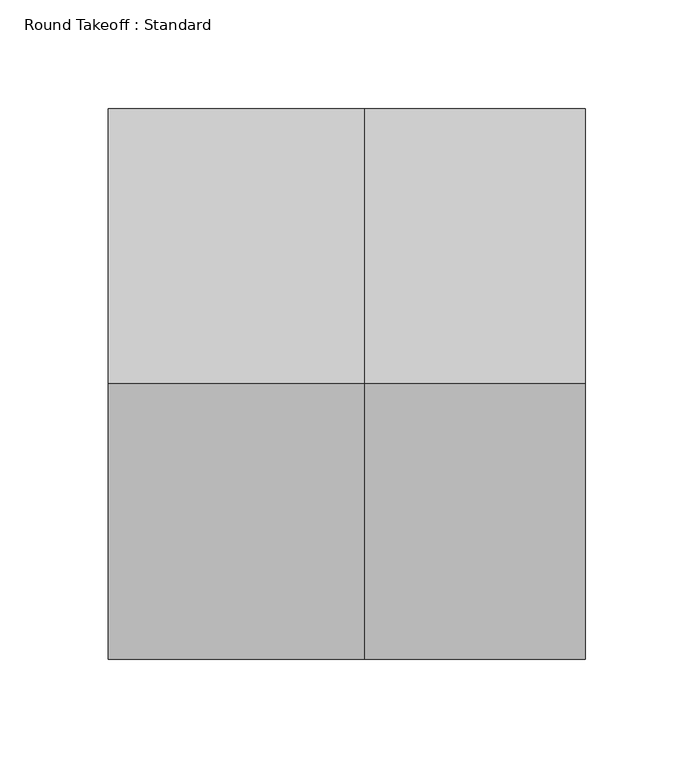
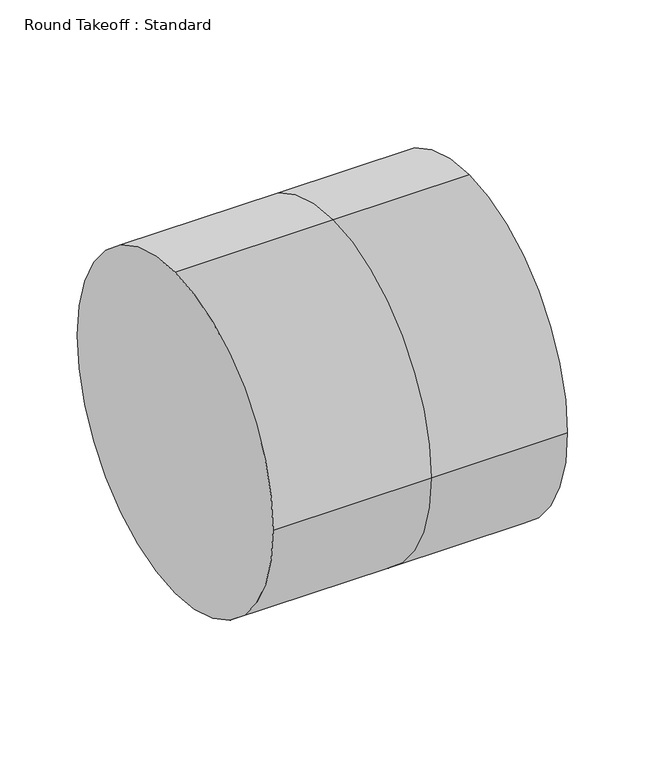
"""IFC4 building model written with IfcOpenShell, lengths in millimetres: duct fitting geometry, Round Takeoff : Standard."""

from ifc_helpers import new_model, si_unit, frame, origin, place, context, project, spatial, circle_curve, source, transform, mapped, element, save
from ifc_brep_helpers import plane_surface, cylinder_surface, advanced_brep


def round_takeoff_standard_d952ff4d(model_context):
    return source(origin(), model_context, "Body", "AdvancedBrep", [
        advanced_brep(
        [(101.6, 0.0, 127.0), (101.6, -127.0, 0.0), (101.6, 0.0, -127.0), (101.6, 127.0, 0.0), (0.0, 0.0, 127.0), (0.0, -127.0, 0.0), (0.0, 0.0, -127.0), (0.0, 127.0, 0.0), (-118.2595914, 0.0, 127.0), (-118.2595914, 127.0, 0.0), (-118.2595914, 0.0, -127.0), (-118.2595914, -127.0, 0.0)],
        [
            (0, 1, circle_curve(frame((101.6, 0.0, 0.0), z_axis=(1.0, 0.0, 0.0), x_axis=(0.0, -1.0, 0.0)), 127.0)),
            (1, 2, circle_curve(frame((101.6, 0.0, 0.0), z_axis=(1.0, 0.0, 0.0), x_axis=(0.0, -1.0, 0.0)), 127.0)),
            (2, 3, circle_curve(frame((101.6, 0.0, 0.0), z_axis=(1.0, 0.0, 0.0), x_axis=(0.0, -1.0, 0.0)), 127.0)),
            (3, 0, circle_curve(frame((101.6, 0.0, 0.0), z_axis=(1.0, 0.0, 0.0), x_axis=(0.0, -1.0, 0.0)), 127.0)),
            (0, 4),
            (4, 5, circle_curve(frame((0.0, 0.0, 0.0), z_axis=(1.0, 0.0, 0.0), x_axis=(0.0, -1.0, 0.0)), 127.0)),
            (5, 1),
            (5, 6, circle_curve(frame((0.0, 0.0, 0.0), z_axis=(1.0, 0.0, 0.0), x_axis=(0.0, -1.0, 0.0)), 127.0)),
            (6, 2),
            (6, 7, circle_curve(frame((0.0, 0.0, 0.0), z_axis=(1.0, 0.0, 0.0), x_axis=(0.0, -1.0, 0.0)), 127.0)),
            (7, 3),
            (7, 4, circle_curve(frame((0.0, 0.0, 0.0), z_axis=(1.0, 0.0, 0.0), x_axis=(0.0, -1.0, 0.0)), 127.0)),
            (8, 9, circle_curve(frame((-118.2595914, 0.0, 0.0), z_axis=(-1.0, 0.0, 0.0), x_axis=(0.0, -1.0, 0.0)), 127.0)),
            (9, 10, circle_curve(frame((-118.2595914, 0.0, 0.0), z_axis=(-1.0, 0.0, 0.0), x_axis=(0.0, -1.0, 0.0)), 127.0)),
            (10, 11, circle_curve(frame((-118.2595914, 0.0, 0.0), z_axis=(-1.0, 0.0, 0.0), x_axis=(0.0, -1.0, 0.0)), 127.0)),
            (11, 8, circle_curve(frame((-118.2595914, 0.0, 0.0), z_axis=(-1.0, 0.0, 0.0), x_axis=(0.0, -1.0, 0.0)), 127.0)),
            (11, 5),
            (4, 8),
            (10, 6),
            (9, 7),
        ],
        [
            plane_surface(frame((101.6, 0.0, 0.0), z_axis=(1.0, 0.0, 0.0), x_axis=(0.0, 0.0, 1.0))),
            cylinder_surface(frame((0.0, 0.0, 0.0), z_axis=(-1.0, 0.0, 0.0), x_axis=(0.0, -1.0, 0.0)), 127.0),
            plane_surface(frame((-118.2595914, 0.0, 0.0), z_axis=(-1.0, 0.0, 0.0), x_axis=(0.0, 0.0, 1.0))),
            cylinder_surface(frame((-118.2595914, 0.0, 0.0), z_axis=(-1.0, 0.0, 0.0), x_axis=(0.0, -1.0, 0.0)), 127.0),
        ],
        [
            (0, [[1, 2, 3, 4]]),
            (1, [[5, 6, 7, -1]]),
            (1, [[-7, 8, 9, -2]]),
            (1, [[-9, 10, 11, -3]]),
            (1, [[-11, 12, -5, -4]]),
            (2, [[13, 14, 15, 16]]),
            (3, [[17, -6, 18, -16]]),
            (3, [[19, -8, -17, -15]]),
            (3, [[20, -10, -19, -14]]),
            (3, [[-18, -12, -20, -13]]),
        ],
    ),
    ])


if __name__ == "__main__":
    model = new_model("IFC4")
    model_context = context("Model", 3, world=origin())
    ifc_project = project(units=[si_unit("LENGTHUNIT", "METRE", prefix="MILLI")], contexts=[model_context])
    site = spatial("IfcSite", under=ifc_project)
    building = spatial("IfcBuilding", under=site)
    placement = place(None, origin())
    round_takeoff_standard_shape = round_takeoff_standard_d952ff4d(model_context)
    element("IfcDuctFitting", 1, ObjectType="Round Takeoff : Standard", at=placement, inside=building, context=model_context, shape_type="MappedRepresentation", body=[
        mapped(round_takeoff_standard_shape, transform((0.0, 0.0, 0.0), x_axis=(1.0, 0.0, 0.0), y_axis=(0.0, 1.0, 0.0), z_axis=(0.0, 0.0, 1.0))),
    ])
    save(model, "model.ifc")
